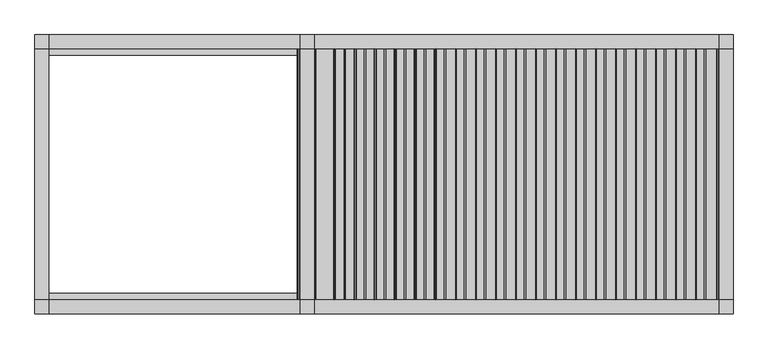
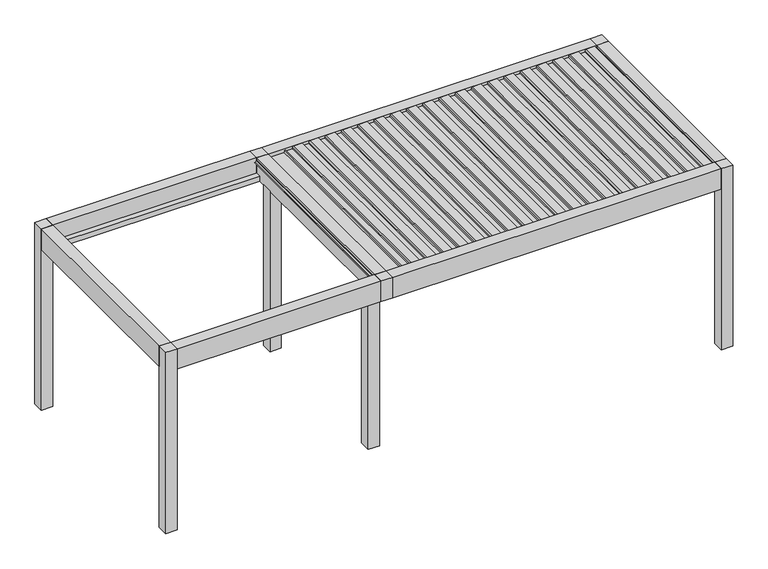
"""IFC4 building model written with IfcOpenShell, lengths in millimetres: proxy geometry, Renson_Amani_Patio_Cover : Renson_Amani_Patio_Cover."""

from ifc_helpers import new_model, si_unit, point, frame, frame_2d, origin, origin_with_axes, place, context, project, spatial, polyline, circle_curve, trimmed, segment, composite_curve, outline, extrude, source, transform, mapped, element, save


def generic_models_daa4106b(model_context):
    return source(origin(), model_context, "Body", "SweptSolid", [
        extrude(outline(composite_curve([segment(polyline([(2483.35, 5573.7350356), (2511.01198, 5576.1551453), (2512.3970364, 5604.9903957), (2531.8911096, 5601.5530647), (2526.6075693, 5491.5559498)]), True, "CONTINUOUS"), segment(trimmed(circle_curve(frame_2d((2511.6248435, 5492.2756218)), 15.0), [point((2526.6075693, 5491.5559498))], [point((2514.2295662, 5477.5035055))], False, "CARTESIAN"), True, "CONTINUOUS"), segment(polyline([(2514.2295662, 5477.5035055), (2495.0, 5474.1128141), (2495.0, 5386.3770381), (2512.0788237, 5383.3655807), (2511.3450182, 5368.0886102), (2483.35, 5365.6393635), (2483.35, 5573.7350356)]), True, "CONTINUOUS")], self_intersect=False)), frame((0.0, -1350.0, 0.0), z_axis=(0.0, 1.0, 0.0), x_axis=(0.0, 0.0, 1.0)), (0.0, 0.0, 1.0), 2700.0),
        extrude(outline(composite_curve([segment(polyline([(2483.35, 5358.7254314), (2511.01198, 5361.145541), (2512.3970364, 5389.9807915), (2531.8911096, 5386.5434604), (2526.6075693, 5276.5463456)]), True, "CONTINUOUS"), segment(trimmed(circle_curve(frame_2d((2511.6248435, 5277.2660175)), 15.0), [point((2526.6075693, 5276.5463456))], [point((2514.2295662, 5262.4939012))], False, "CARTESIAN"), True, "CONTINUOUS"), segment(polyline([(2514.2295662, 5262.4939012), (2495.0, 5259.1032099), (2495.0, 5171.3674338), (2512.0788237, 5168.3559764), (2511.3450182, 5153.0790059), (2483.35, 5150.6297592), (2483.35, 5358.7254314)]), True, "CONTINUOUS")], self_intersect=False)), frame((0.0, -1350.0, 0.0), z_axis=(0.0, 1.0, 0.0), x_axis=(0.0, 0.0, 1.0)), (0.0, 0.0, 1.0), 2700.0),
        extrude(outline(composite_curve([segment(polyline([(2483.35, 5143.7158271), (2511.01198, 5146.1359368), (2512.3970364, 5174.9711872), (2531.8911096, 5171.5338562), (2526.6075693, 5061.5367413)]), True, "CONTINUOUS"), segment(trimmed(circle_curve(frame_2d((2511.6248435, 5062.2564133)), 15.0), [point((2526.6075693, 5061.5367413))], [point((2514.2295662, 5047.484297))], False, "CARTESIAN"), True, "CONTINUOUS"), segment(polyline([(2514.2295662, 5047.484297), (2495.0, 5044.0936056), (2495.0, 4956.3578296), (2512.0788237, 4953.3463722), (2511.3450182, 4938.0694017), (2483.35, 4935.620155), (2483.35, 5143.7158271)]), True, "CONTINUOUS")], self_intersect=False)), frame((0.0, -1350.0, 0.0), z_axis=(0.0, 1.0, 0.0), x_axis=(0.0, 0.0, 1.0)), (0.0, 0.0, 1.0), 2700.0),
        extrude(outline(composite_curve([segment(polyline([(2483.35, 4928.7062229), (2511.01198, 4931.1263325), (2512.3970364, 4959.961583), (2531.8911096, 4956.5242519), (2526.6075693, 4846.5271371)]), True, "CONTINUOUS"), segment(trimmed(circle_curve(frame_2d((2511.6248435, 4847.246809)), 15.0), [point((2526.6075693, 4846.5271371))], [point((2514.2295662, 4832.4746927))], False, "CARTESIAN"), True, "CONTINUOUS"), segment(polyline([(2514.2295662, 4832.4746927), (2495.0, 4829.0840014), (2495.0, 4741.3482253), (2512.0788237, 4738.3367679), (2511.3450182, 4723.0597974), (2483.35, 4720.6105507), (2483.35, 4928.7062229)]), True, "CONTINUOUS")], self_intersect=False)), frame((0.0, -1350.0, 0.0), z_axis=(0.0, 1.0, 0.0), x_axis=(0.0, 0.0, 1.0)), (0.0, 0.0, 1.0), 2700.0),
        extrude(outline(composite_curve([segment(polyline([(2483.35, 4713.6966186), (2511.01198, 4716.1167283), (2512.3970364, 4744.9519787), (2531.8911096, 4741.5146477), (2526.6075693, 4631.5175328)]), True, "CONTINUOUS"), segment(trimmed(circle_curve(frame_2d((2511.6248435, 4632.2372048)), 15.0), [point((2526.6075693, 4631.5175328))], [point((2514.2295662, 4617.4650885))], False, "CARTESIAN"), True, "CONTINUOUS"), segment(polyline([(2514.2295662, 4617.4650885), (2495.0, 4614.0743971), (2495.0, 4526.3386211), (2512.0788237, 4523.3271637), (2511.3450182, 4508.0501932), (2483.35, 4505.6009465), (2483.35, 4713.6966186)]), True, "CONTINUOUS")], self_intersect=False)), frame((0.0, -1350.0, 0.0), z_axis=(0.0, 1.0, 0.0), x_axis=(0.0, 0.0, 1.0)), (0.0, 0.0, 1.0), 2700.0),
        extrude(outline(composite_curve([segment(polyline([(2483.35, 4498.6870144), (2511.01198, 4501.107124), (2512.3970364, 4529.9423745), (2531.8911096, 4526.5050434), (2526.6075693, 4416.5079286)]), True, "CONTINUOUS"), segment(trimmed(circle_curve(frame_2d((2511.6248435, 4417.2276005)), 15.0), [point((2526.6075693, 4416.5079286))], [point((2514.2295662, 4402.4554842))], False, "CARTESIAN"), True, "CONTINUOUS"), segment(polyline([(2514.2295662, 4402.4554842), (2495.0, 4399.0647929), (2495.0, 4311.3290168), (2512.0788237, 4308.3175594), (2511.3450182, 4293.0405889), (2483.35, 4290.5913422), (2483.35, 4498.6870144)]), True, "CONTINUOUS")], self_intersect=False)), frame((0.0, -1350.0, 0.0), z_axis=(0.0, 1.0, 0.0), x_axis=(0.0, 0.0, 1.0)), (0.0, 0.0, 1.0), 2700.0),
        extrude(outline(composite_curve([segment(polyline([(2483.35, 4283.6774101), (2511.01198, 4286.0975198), (2512.3970364, 4314.9327702), (2531.8911096, 4311.4954392), (2526.6075693, 4201.4983243)]), True, "CONTINUOUS"), segment(trimmed(circle_curve(frame_2d((2511.6248435, 4202.2179963)), 15.0), [point((2526.6075693, 4201.4983243))], [point((2514.2295662, 4187.44588))], False, "CARTESIAN"), True, "CONTINUOUS"), segment(polyline([(2514.2295662, 4187.44588), (2495.0, 4184.0551886), (2495.0, 4096.3194126), (2512.0788237, 4093.3079552), (2511.3450182, 4078.0309847), (2483.35, 4075.581738), (2483.35, 4283.6774101)]), True, "CONTINUOUS")], self_intersect=False)), frame((0.0, -1350.0, 0.0), z_axis=(0.0, 1.0, 0.0), x_axis=(0.0, 0.0, 1.0)), (0.0, 0.0, 1.0), 2700.0),
        extrude(outline(composite_curve([segment(polyline([(2483.35, 4068.6678059), (2511.01198, 4071.0879155), (2512.3970364, 4099.923166), (2531.8911096, 4096.4858349), (2526.6075693, 3986.4887201)]), True, "CONTINUOUS"), segment(trimmed(circle_curve(frame_2d((2511.6248435, 3987.208392)), 15.0), [point((2526.6075693, 3986.4887201))], [point((2514.2295662, 3972.4362757))], False, "CARTESIAN"), True, "CONTINUOUS"), segment(polyline([(2514.2295662, 3972.4362757), (2495.0, 3969.0455844), (2495.0, 3881.3098083), (2512.0788237, 3878.2983509), (2511.3450182, 3863.0213804), (2483.35, 3860.5721337), (2483.35, 4068.6678059)]), True, "CONTINUOUS")], self_intersect=False)), frame((0.0, -1350.0, 0.0), z_axis=(0.0, 1.0, 0.0), x_axis=(0.0, 0.0, 1.0)), (0.0, 0.0, 1.0), 2700.0),
        extrude(outline(composite_curve([segment(polyline([(2483.35, 3853.6582016), (2511.01198, 3856.0783113), (2512.3970364, 3884.9135617), (2531.8911096, 3881.4762307), (2526.6075693, 3771.4791158)]), True, "CONTINUOUS"), segment(trimmed(circle_curve(frame_2d((2511.6248435, 3772.1987878)), 15.0), [point((2526.6075693, 3771.4791158))], [point((2514.2295662, 3757.4266715))], False, "CARTESIAN"), True, "CONTINUOUS"), segment(polyline([(2514.2295662, 3757.4266715), (2495.0, 3754.0359801), (2495.0, 3666.3002041), (2512.0788237, 3663.2887467), (2511.3450182, 3648.0117762), (2483.35, 3645.5625295), (2483.35, 3853.6582016)]), True, "CONTINUOUS")], self_intersect=False)), frame((0.0, -1350.0, 0.0), z_axis=(0.0, 1.0, 0.0), x_axis=(0.0, 0.0, 1.0)), (0.0, 0.0, 1.0), 2700.0),
        extrude(outline(composite_curve([segment(polyline([(2483.35, 3638.6485974), (2511.01198, 3641.068707), (2512.3970364, 3669.9039575), (2531.8911096, 3666.4666264), (2526.6075693, 3556.4695116)]), True, "CONTINUOUS"), segment(trimmed(circle_curve(frame_2d((2511.6248435, 3557.1891835)), 15.0), [point((2526.6075693, 3556.4695116))], [point((2514.2295662, 3542.4170672))], False, "CARTESIAN"), True, "CONTINUOUS"), segment(polyline([(2514.2295662, 3542.4170672), (2495.0, 3539.0263759), (2495.0, 3451.2905998), (2512.0788237, 3448.2791424), (2511.3450182, 3433.0021719), (2483.35, 3430.5529252), (2483.35, 3638.6485974)]), True, "CONTINUOUS")], self_intersect=False)), frame((0.0, -1350.0, 0.0), z_axis=(0.0, 1.0, 0.0), x_axis=(0.0, 0.0, 1.0)), (0.0, 0.0, 1.0), 2700.0),
        extrude(outline(composite_curve([segment(polyline([(2483.35, 3423.6389931), (2511.01198, 3426.0591028), (2512.3970364, 3454.8943532), (2531.8911096, 3451.4570222), (2526.6075693, 3341.4599073)]), True, "CONTINUOUS"), segment(trimmed(circle_curve(frame_2d((2511.6248435, 3342.1795792)), 15.0), [point((2526.6075693, 3341.4599073))], [point((2514.2295662, 3327.407463))], False, "CARTESIAN"), True, "CONTINUOUS"), segment(polyline([(2514.2295662, 3327.407463), (2495.0, 3324.0167716), (2495.0, 3236.2809956), (2512.0788237, 3233.2695382), (2511.3450182, 3217.9925677), (2483.35, 3215.543321), (2483.35, 3423.6389931)]), True, "CONTINUOUS")], self_intersect=False)), frame((0.0, -1350.0, 0.0), z_axis=(0.0, 1.0, 0.0), x_axis=(0.0, 0.0, 1.0)), (0.0, 0.0, 1.0), 2700.0),
        extrude(outline(composite_curve([segment(polyline([(2483.35, 3208.6293889), (2511.01198, 3211.0494985), (2512.3970364, 3239.884749), (2531.8911096, 3236.4474179), (2526.6075693, 3126.4503031)]), True, "CONTINUOUS"), segment(trimmed(circle_curve(frame_2d((2511.6248435, 3127.169975)), 15.0), [point((2526.6075693, 3126.4503031))], [point((2514.2295662, 3112.3978587))], False, "CARTESIAN"), True, "CONTINUOUS"), segment(polyline([(2514.2295662, 3112.3978587), (2495.0, 3109.0071674), (2495.0, 3021.2713913), (2512.0788237, 3018.2599339), (2511.3450182, 3002.9829634), (2483.35, 3000.5337167), (2483.35, 3208.6293889)]), True, "CONTINUOUS")], self_intersect=False)), frame((0.0, -1350.0, 0.0), z_axis=(0.0, 1.0, 0.0), x_axis=(0.0, 0.0, 1.0)), (0.0, 0.0, 1.0), 2700.0),
        extrude(outline(composite_curve([segment(polyline([(2483.35, 2993.6197846), (2511.01198, 2996.0398943), (2512.3970364, 3024.8751447), (2531.8911096, 3021.4378137), (2526.6075693, 2911.4406988)]), True, "CONTINUOUS"), segment(trimmed(circle_curve(frame_2d((2511.6248435, 2912.1603707)), 15.0), [point((2526.6075693, 2911.4406988))], [point((2514.2295662, 2897.3882545))], False, "CARTESIAN"), True, "CONTINUOUS"), segment(polyline([(2514.2295662, 2897.3882545), (2495.0, 2893.9975631), (2495.0, 2806.2617871), (2512.0788237, 2803.2503297), (2511.3450182, 2787.9733592), (2483.35, 2785.5241125), (2483.35, 2993.6197846)]), True, "CONTINUOUS")], self_intersect=False)), frame((0.0, -1350.0, 0.0), z_axis=(0.0, 1.0, 0.0), x_axis=(0.0, 0.0, 1.0)), (0.0, 0.0, 1.0), 2700.0),
        extrude(outline(composite_curve([segment(polyline([(2483.35, 2778.6101804), (2511.01198, 2781.03029), (2512.3970364, 2809.8655405), (2531.8911096, 2806.4282094), (2526.6075693, 2696.4310946)]), True, "CONTINUOUS"), segment(trimmed(circle_curve(frame_2d((2511.6248435, 2697.1507665)), 15.0), [point((2526.6075693, 2696.4310946))], [point((2514.2295662, 2682.3786502))], False, "CARTESIAN"), True, "CONTINUOUS"), segment(polyline([(2514.2295662, 2682.3786502), (2495.0, 2678.9879589), (2495.0, 2591.2521828), (2512.0788237, 2588.2407254), (2511.3450182, 2572.9637549), (2483.35, 2570.5145082), (2483.35, 2778.6101804)]), True, "CONTINUOUS")], self_intersect=False)), frame((0.0, -1350.0, 0.0), z_axis=(0.0, 1.0, 0.0), x_axis=(0.0, 0.0, 1.0)), (0.0, 0.0, 1.0), 2700.0),
        extrude(outline(composite_curve([segment(polyline([(2483.35, 2563.6005761), (2511.01198, 2566.0206858), (2512.3970364, 2594.8559362), (2531.8911096, 2591.4186052), (2526.6075693, 2481.4214903)]), True, "CONTINUOUS"), segment(trimmed(circle_curve(frame_2d((2511.6248435, 2482.1411622)), 15.0), [point((2526.6075693, 2481.4214903))], [point((2514.2295662, 2467.369046))], False, "CARTESIAN"), True, "CONTINUOUS"), segment(polyline([(2514.2295662, 2467.369046), (2495.0, 2463.9783546), (2495.0, 2376.2425786), (2512.0788237, 2373.2311212), (2511.3450182, 2357.9541507), (2483.35, 2355.504904), (2483.35, 2563.6005761)]), True, "CONTINUOUS")], self_intersect=False)), frame((0.0, -1350.0, 0.0), z_axis=(0.0, 1.0, 0.0), x_axis=(0.0, 0.0, 1.0)), (0.0, 0.0, 1.0), 2700.0),
        extrude(outline(composite_curve([segment(polyline([(2483.35, 2348.5909719), (2511.01198, 2351.0110815), (2512.3970364, 2379.846332), (2531.8911096, 2376.4090009), (2526.6075693, 2266.4118861)]), True, "CONTINUOUS"), segment(trimmed(circle_curve(frame_2d((2511.6248435, 2267.131558)), 15.0), [point((2526.6075693, 2266.4118861))], [point((2514.2295662, 2252.3594417))], False, "CARTESIAN"), True, "CONTINUOUS"), segment(polyline([(2514.2295662, 2252.3594417), (2495.0, 2248.9687504), (2495.0, 2161.2329743), (2512.0788237, 2158.2215169), (2511.3450182, 2142.9445464), (2483.35, 2140.4952997), (2483.35, 2348.5909719)]), True, "CONTINUOUS")], self_intersect=False)), frame((0.0, -1350.0, 0.0), z_axis=(0.0, 1.0, 0.0), x_axis=(0.0, 0.0, 1.0)), (0.0, 0.0, 1.0), 2700.0),
        extrude(outline(composite_curve([segment(polyline([(2483.35, 2133.5813676), (2511.01198, 2136.0014773), (2512.3970364, 2164.8367277), (2531.8911096, 2161.3993967), (2526.6075693, 2051.4022818)]), True, "CONTINUOUS"), segment(trimmed(circle_curve(frame_2d((2511.6248435, 2052.1219537)), 15.0), [point((2526.6075693, 2051.4022818))], [point((2514.2295662, 2037.3498375))], False, "CARTESIAN"), True, "CONTINUOUS"), segment(polyline([(2514.2295662, 2037.3498375), (2495.0, 2033.9591461), (2495.0, 1946.2233701), (2512.0788237, 1943.2119127), (2511.3450182, 1927.9349422), (2483.35, 1925.4856955), (2483.35, 2133.5813676)]), True, "CONTINUOUS")], self_intersect=False)), frame((0.0, -1350.0, 0.0), z_axis=(0.0, 1.0, 0.0), x_axis=(0.0, 0.0, 1.0)), (0.0, 0.0, 1.0), 2700.0),
        extrude(outline(composite_curve([segment(polyline([(2483.35, 5788.7446399), (2511.01198, 5791.1647495), (2512.3970364, 5820.0), (2531.8911096, 5816.5626689), (2526.6075693, 5706.5655541)]), True, "CONTINUOUS"), segment(trimmed(circle_curve(frame_2d((2511.6248435, 5707.285226)), 15.0), [point((2526.6075693, 5706.5655541))], [point((2514.2295662, 5692.5131097))], False, "CARTESIAN"), True, "CONTINUOUS"), segment(polyline([(2514.2295662, 5692.5131097), (2495.0, 5689.1224184), (2495.0, 5601.3866423), (2512.0788237, 5598.3751849), (2511.3450182, 5583.0982144), (2483.35, 5580.6489677), (2483.35, 5788.7446399)]), True, "CONTINUOUS")], self_intersect=False)), frame((0.0, -1350.0, 0.0), z_axis=(0.0, 1.0, 0.0), x_axis=(0.0, 0.0, 1.0)), (0.0, 0.0, 1.0), 2700.0),
        extrude(outline(composite_curve([segment(polyline([(2483.35, 1918.5717634), (2511.01198, 1920.991873), (2512.3970364, 1949.8271235), (2531.8911096, 1946.3897924), (2526.6075693, 1836.3926776)]), True, "CONTINUOUS"), segment(trimmed(circle_curve(frame_2d((2511.6248435, 1837.1123495)), 15.0), [point((2526.6075693, 1836.3926776))], [point((2514.2295662, 1822.3402332))], False, "CARTESIAN"), True, "CONTINUOUS"), segment(polyline([(2514.2295662, 1822.3402332), (2495.0, 1818.9495419), (2495.0, 1731.2137658), (2512.0788237, 1728.2023084), (2511.3450182, 1712.9253379), (2483.35, 1710.4760912), (2483.35, 1918.5717634)]), True, "CONTINUOUS")], self_intersect=False)), frame((0.0, -1350.0, 0.0), z_axis=(0.0, 1.0, 0.0), x_axis=(0.0, 0.0, 1.0)), (0.0, 0.0, 1.0), 2700.0),
        extrude(outline(polyline([(6000.0, 1500.0), (6000.0, 1350.0), (5850.0, 1350.0), (5850.0, 1500.0), (6000.0, 1500.0)])), origin_with_axes(), (0.0, 0.0, 1.0), 2535.0),
        extrude(outline(polyline([(1500.0, 1500.0), (1500.0, 1350.0), (1350.0, 1350.0), (1350.0, 1500.0), (1500.0, 1500.0)])), frame((0.0, 0.0, 2250.0), z_axis=(0.0, 0.0, 1.0), x_axis=(1.0, 0.0, 0.0)), (0.0, 0.0, 1.0), 285.0),
        extrude(outline(polyline([(1500.0, -1350.0), (1500.0, -1500.0), (1350.0, -1500.0), (1350.0, -1350.0), (1500.0, -1350.0)])), frame((0.0, 0.0, 2250.0), z_axis=(0.0, 0.0, 1.0), x_axis=(1.0, 0.0, 0.0)), (0.0, 0.0, 1.0), 285.0),
        extrude(outline(polyline([(6000.0, -1350.0), (6000.0, -1500.0), (5850.0, -1500.0), (5850.0, -1350.0), (6000.0, -1350.0)])), origin_with_axes(), (0.0, 0.0, 1.0), 2535.0),
        extrude(outline(polyline([(1500.0, -1050.0), (1500.0, -1200.0), (1350.0, -1200.0), (1350.0, -1050.0), (1500.0, -1050.0)])), origin_with_axes(), (0.0, 0.0, 1.0), 2250.0),
        extrude(outline(polyline([(1500.0, 1200.0), (1500.0, 1050.0), (1350.0, 1050.0), (1350.0, 1200.0), (1500.0, 1200.0)])), origin_with_axes(), (0.0, 0.0, 1.0), 2250.0),
        extrude(outline(polyline([(-1350.0, 1350.0), (-1500.0, 1350.0), (-1500.0, 1500.0), (-1350.0, 1500.0), (-1350.0, 1350.0)])), origin_with_axes(), (0.0, 0.0, 1.0), 2535.0),
        extrude(outline(polyline([(-1350.0, -1350.0), (-1350.0, -1500.0), (-1500.0, -1500.0), (-1500.0, -1350.0), (-1350.0, -1350.0)])), origin_with_axes(), (0.0, 0.0, 1.0), 2535.0),
        extrude(outline(polyline([(2466.6559373, 1500.0), (2466.6559373, 1705.0), (2480.6555802, 1708.7512887), (2480.6555802, 1520.4059055), (2496.400763, 1505.0), (2504.2449277, 1505.0), (2504.6823598, 1500.0), (2466.6559373, 1500.0)])), frame((0.0, -1350.0, 0.0), z_axis=(0.0, 1.0, 0.0), x_axis=(0.0, 0.0, 1.0)), (0.0, 0.0, 1.0), 2700.0),
        extrude(outline(polyline([(-1350.0, 2535.0), (-1350.0, 2322.0), (-1280.0000001, 2322.0), (-1280.0000001, 2250.0), (-1500.0, 2250.0), (-1500.0, 2535.0), (-1350.0, 2535.0)])), frame((1500.0, 0.0, 0.0), z_axis=(1.0, 0.0, 0.0), x_axis=(0.0, 1.0, 0.0)), (0.0, 0.0, 1.0), 4350.0),
        extrude(outline(polyline([(1500.0, 2250.0), (1280.0000001, 2250.0), (1280.0000001, 2322.0), (1350.0, 2322.0), (1350.0, 2535.0), (1500.0, 2535.0), (1500.0, 2250.0)])), frame((1500.0, 0.0, 0.0), z_axis=(1.0, 0.0, 0.0), x_axis=(0.0, 1.0, 0.0)), (0.0, 0.0, 1.0), 4350.0),
        extrude(outline(polyline([(2535.0, 6000.0), (2535.0, 5850.0), (2504.6823598, 5850.0), (2504.2449277, 5845.0), (2496.400763, 5845.0), (2480.6555802, 5829.2544156), (2480.6555802, 5819.9090324), (2466.6559373, 5823.6603211), (2466.6559373, 5850.0), (2250.0, 5850.0), (2250.0, 6000.0), (2535.0, 6000.0)])), frame((0.0, -1350.0, 0.0), z_axis=(0.0, 1.0, 0.0), x_axis=(0.0, 0.0, 1.0)), (0.0, 0.0, 1.0), 2700.0),
        extrude(outline(polyline([(-1350.0, -1350.0), (-1500.0, -1350.0), (-1500.0, 1350.0), (-1350.0, 1350.0), (-1350.0, -1350.0)])), frame((0.0, 0.0, 2250.0), z_axis=(0.0, 0.0, 1.0), x_axis=(1.0, 0.0, 0.0)), (0.0, 0.0, 1.0), 285.0),
        extrude(outline(polyline([(2535.0, 1500.0), (2535.0, 1350.0), (2504.6904658, 1350.0), (2504.2449277, 1345.0), (2496.400763, 1345.0), (2480.6555802, 1329.2544156), (2480.6555802, 1319.9090324), (2466.6559373, 1323.6603211), (2466.6559373, 1350.0), (2250.0, 1350.0), (2250.0, 1500.0), (2535.0, 1500.0)])), frame((0.0, -1350.0, 0.0), z_axis=(0.0, 1.0, 0.0), x_axis=(0.0, 0.0, 1.0)), (0.0, 0.0, 1.0), 2700.0),
        extrude(outline(polyline([(-1350.0, 2535.0), (-1350.0, 2322.0), (-1280.0000001, 2322.0), (-1280.0000001, 2250.0), (-1500.0, 2250.0), (-1500.0, 2535.0), (-1350.0, 2535.0)])), frame((-1350.0, 0.0, 0.0), z_axis=(1.0, 0.0, 0.0), x_axis=(0.0, 1.0, 0.0)), (0.0, 0.0, 1.0), 2700.0),
        extrude(outline(polyline([(1500.0, 2250.0), (1280.0000001, 2250.0), (1280.0000001, 2322.0), (1350.0, 2322.0), (1350.0, 2535.0), (1500.0, 2535.0), (1500.0, 2250.0)])), frame((-1350.0, 0.0, 0.0), z_axis=(1.0, 0.0, 0.0), x_axis=(0.0, 1.0, 0.0)), (0.0, 0.0, 1.0), 2700.0),
    ])


if __name__ == "__main__":
    model = new_model("IFC4")
    model_context = context("Model", 3, world=origin())
    ifc_project = project(units=[si_unit("LENGTHUNIT", "METRE", prefix="MILLI")], contexts=[model_context])
    site = spatial("IfcSite", under=ifc_project)
    building = spatial("IfcBuilding", under=site)
    placement = place(None, origin())
    generic_models_shape = generic_models_daa4106b(model_context)
    element("IfcBuildingElementProxy", 1, Name="Renson_Amani_Patio_Cover : Renson_Amani_Patio_Cover", ObjectType="Renson_Amani_Patio_Cover : Renson_Amani_Patio_Cover", at=placement, inside=building, context=model_context, shape_type="MappedRepresentation", body=[
        mapped(generic_models_shape, transform((0.0, 0.0, 0.0), x_axis=(1.0, 0.0, 0.0), y_axis=(0.0, 1.0, 0.0), z_axis=(0.0, 0.0, 1.0))),
    ])
    save(model, "model.ifc")
